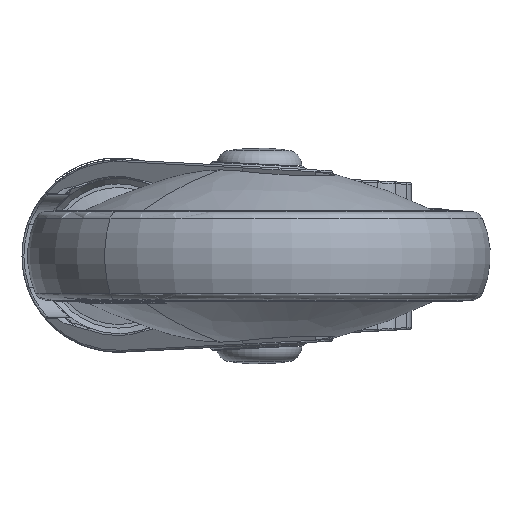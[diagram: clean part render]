
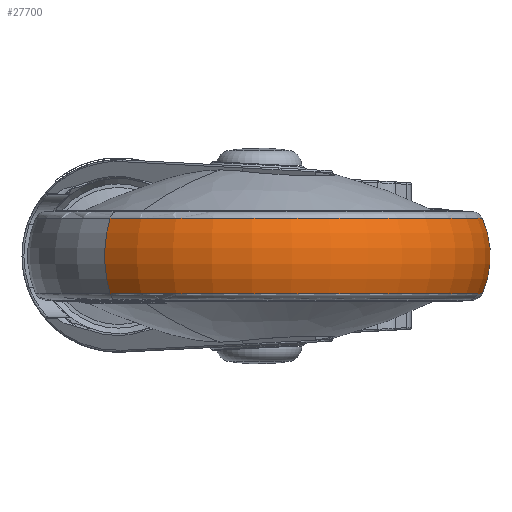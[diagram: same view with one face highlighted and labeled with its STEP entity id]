
A CAD part, front view. The second image highlights one B-rep face of the part: STEP entity #27700.
In plain terms, the highlighted toroidal (fillet/blend) face has major radius 37.5 mm and minor radius 25 mm.
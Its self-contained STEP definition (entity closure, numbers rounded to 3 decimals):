
#20897=CARTESIAN_POINT('',(38.,-82.3,10.137));
#20898=DIRECTION('',(0.,0.,-1.));
#20899=DIRECTION('',(0.667,0.745,0.));
#20900=AXIS2_PLACEMENT_3D('',#20897,#20898,#20899);
#20902=CARTESIAN_POINT('',(63.001,-54.35,0.));
#20903=DIRECTION('',(-0.745,0.667,0.));
#20904=DIRECTION('',(0.609,0.681,0.405));
#20905=AXIS2_PLACEMENT_3D('',#20902,#20903,#20904);
#20907=CARTESIAN_POINT('',(38.,-82.3,-10.137));
#20908=DIRECTION('',(0.,0.,-1.));
#20909=DIRECTION('',(0.667,0.745,0.));
#20910=AXIS2_PLACEMENT_3D('',#20907,#20908,#20909);
#20912=CARTESIAN_POINT('',(12.999,-110.25,0.));
#20913=DIRECTION('',(0.745,-0.667,0.));
#20914=DIRECTION('',(-0.609,-0.681,0.405));
#20915=AXIS2_PLACEMENT_3D('',#20912,#20913,#20914);
#26756=CARTESIAN_POINT('',(78.236,-37.317,
10.137));
#26757=CARTESIAN_POINT('',(-2.236,-127.283,
10.137));
#26758=VERTEX_POINT('',#26756);
#26759=VERTEX_POINT('',#26757);
#26760=CARTESIAN_POINT('',(-2.236,-127.283,
-10.137));
#26761=CARTESIAN_POINT('',(78.236,-37.317,
-10.137));
#26762=VERTEX_POINT('',#26760);
#26763=VERTEX_POINT('',#26761);
#27687=CARTESIAN_POINT('',(38.,-82.3,0.));
#27688=DIRECTION('',(0.,0.,1.));
#27689=DIRECTION('',(-0.667,-0.745,0.));
#27690=AXIS2_PLACEMENT_3D('',#27687,#27688,#27689);
#27691=TOROIDAL_SURFACE('',#27690,37.5,25.);
#27693=ORIENTED_EDGE('',*,*,#27692,.F.);
#27694=ORIENTED_EDGE('',*,*,#27675,.T.);
#27696=ORIENTED_EDGE('',*,*,#27695,.T.);
#27697=ORIENTED_EDGE('',*,*,#27671,.F.);
#27698=EDGE_LOOP('',(#27693,#27694,#27696,#27697));
#27699=FACE_OUTER_BOUND('',#27698,.F.);
#20901=CIRCLE('',#20900,60.352);
#20906=CIRCLE('',#20905,25.);
#20911=CIRCLE('',#20910,60.352);
#20916=CIRCLE('',#20915,25.);
#27671=EDGE_CURVE('',#26759,#26762,#20916,.T.);
#27675=EDGE_CURVE('',#26758,#26763,#20906,.T.);
#27692=EDGE_CURVE('',#26758,#26759,#20901,.T.);
#27695=EDGE_CURVE('',#26763,#26762,#20911,.T.);
#27700=ADVANCED_FACE('',(#27699),#27691,.T.);
